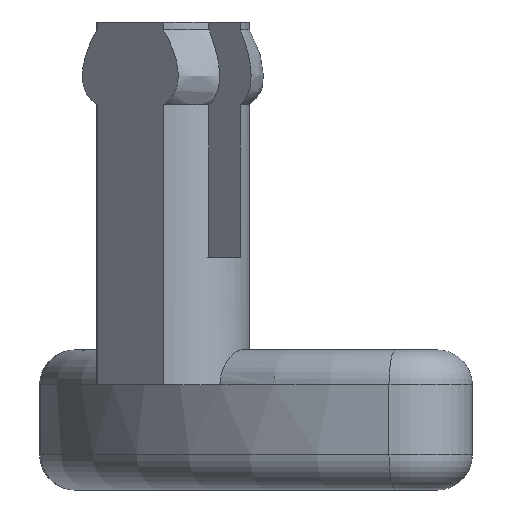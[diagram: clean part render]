
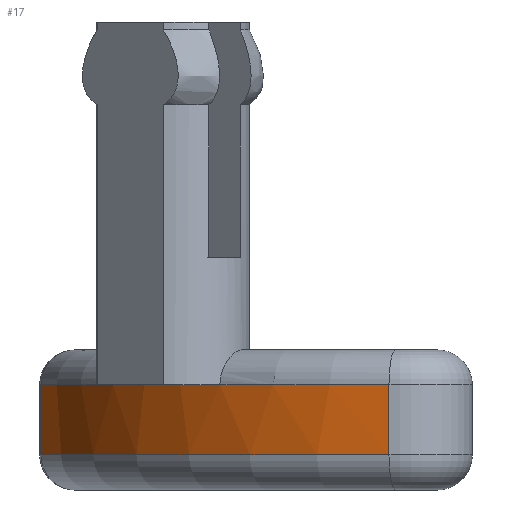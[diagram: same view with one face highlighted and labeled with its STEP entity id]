
A CAD part, front view. The second image highlights one B-rep face of the part: STEP entity #17.
In plain terms, the highlighted cylindrical face has radius 6.9 mm (diameter 13.8 mm), a partial arc.
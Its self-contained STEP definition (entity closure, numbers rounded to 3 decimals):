
#17 = ADVANCED_FACE('',(#18),#32,.T.);
#18 = FACE_BOUND('',#19,.F.);
#19 = EDGE_LOOP('',(#20,#55,#84,#117,#146,#174));
#20 = ORIENTED_EDGE('',*,*,#21,.T.);
#21 = EDGE_CURVE('',#22,#24,#26,.T.);
#22 = VERTEX_POINT('',#23);
#23 = CARTESIAN_POINT('',(-24.575,-19.109,-0.1));
#24 = VERTEX_POINT('',#25);
#25 = CARTESIAN_POINT('',(-24.575,-19.109,1.));
#26 = SURFACE_CURVE('',#27,(#31,#43),.PCURVE_S1.);
#27 = LINE('',#28,#29);
#28 = CARTESIAN_POINT('',(-24.575,-19.109,-0.65));
#29 = VECTOR('',#30,1.);
#30 = DIRECTION('',(0.,0.,1.));
#31 = PCURVE('',#32,#37);
#32 = CYLINDRICAL_SURFACE('',#33,6.9);
#33 = AXIS2_PLACEMENT_3D('',#34,#35,#36);
#34 = CARTESIAN_POINT('',(-17.8,-17.8,-0.65));
#35 = DIRECTION('',(0.,0.,-1.));
#36 = DIRECTION('',(-1.,0.,0.));
#37 = DEFINITIONAL_REPRESENTATION('',(#38),#42);
#38 = LINE('',#39,#40);
#39 = CARTESIAN_POINT('',(-0.191,0.));
#40 = VECTOR('',#41,1.);
#41 = DIRECTION('',(-0.,-1.));
#42 = ( GEOMETRIC_REPRESENTATION_CONTEXT(2) 
PARAMETRIC_REPRESENTATION_CONTEXT() REPRESENTATION_CONTEXT('2D SPACE',''
  ) );
#43 = PCURVE('',#44,#49);
#44 = CYLINDRICAL_SURFACE('',#45,1.1);
#45 = AXIS2_PLACEMENT_3D('',#46,#47,#48);
#46 = CARTESIAN_POINT('',(-23.495,-18.9,-0.65));
#47 = DIRECTION('',(0.,0.,1.));
#48 = DIRECTION('',(-0.982,-0.19,0.));
#49 = DEFINITIONAL_REPRESENTATION('',(#50),#54);
#50 = LINE('',#51,#52);
#51 = CARTESIAN_POINT('',(-0.,0.));
#52 = VECTOR('',#53,1.);
#53 = DIRECTION('',(-0.,1.));
#54 = ( GEOMETRIC_REPRESENTATION_CONTEXT(2) 
PARAMETRIC_REPRESENTATION_CONTEXT() REPRESENTATION_CONTEXT('2D SPACE',''
  ) );
#55 = ORIENTED_EDGE('',*,*,#56,.F.);
#56 = EDGE_CURVE('',#57,#24,#59,.T.);
#57 = VERTEX_POINT('',#58);
#58 = CARTESIAN_POINT('',(-23.448,-21.764,1.));
#59 = SURFACE_CURVE('',#60,(#65,#72),.PCURVE_S1.);
#60 = CIRCLE('',#61,6.9);
#61 = AXIS2_PLACEMENT_3D('',#62,#63,#64);
#62 = CARTESIAN_POINT('',(-17.8,-17.8,1.));
#63 = DIRECTION('',(-0.,0.,-1.));
#64 = DIRECTION('',(-0.19,-0.982,0.));
#65 = PCURVE('',#32,#66);
#66 = DEFINITIONAL_REPRESENTATION('',(#67),#71);
#67 = LINE('',#68,#69);
#68 = CARTESIAN_POINT('',(-1.38,-1.65));
#69 = VECTOR('',#70,1.);
#70 = DIRECTION('',(1.,-0.));
#71 = ( GEOMETRIC_REPRESENTATION_CONTEXT(2) 
PARAMETRIC_REPRESENTATION_CONTEXT() REPRESENTATION_CONTEXT('2D SPACE',''
  ) );
#72 = PCURVE('',#73,#78);
#73 = TOROIDAL_SURFACE('',#74,6.35,0.55);
#74 = AXIS2_PLACEMENT_3D('',#75,#76,#77);
#75 = CARTESIAN_POINT('',(-17.8,-17.8,1.));
#76 = DIRECTION('',(0.,0.,-1.));
#77 = DIRECTION('',(-0.19,-0.982,0.));
#78 = DEFINITIONAL_REPRESENTATION('',(#79),#83);
#79 = LINE('',#80,#81);
#80 = CARTESIAN_POINT('',(0.,6.283));
#81 = VECTOR('',#82,1.);
#82 = DIRECTION('',(1.,0.));
#83 = ( GEOMETRIC_REPRESENTATION_CONTEXT(2) 
PARAMETRIC_REPRESENTATION_CONTEXT() REPRESENTATION_CONTEXT('2D SPACE',''
  ) );
#84 = ORIENTED_EDGE('',*,*,#85,.F.);
#85 = EDGE_CURVE('',#86,#57,#88,.T.);
#86 = VERTEX_POINT('',#87);
#87 = CARTESIAN_POINT('',(-21.764,-23.448,1.));
#88 = SURFACE_CURVE('',#89,(#94,#101),.PCURVE_S1.);
#89 = CIRCLE('',#90,6.9);
#90 = AXIS2_PLACEMENT_3D('',#91,#92,#93);
#91 = CARTESIAN_POINT('',(-17.8,-17.8,1.));
#92 = DIRECTION('',(-0.,0.,-1.));
#93 = DIRECTION('',(-0.19,-0.982,0.));
#94 = PCURVE('',#32,#95);
#95 = DEFINITIONAL_REPRESENTATION('',(#96),#100);
#96 = LINE('',#97,#98);
#97 = CARTESIAN_POINT('',(-1.38,-1.65));
#98 = VECTOR('',#99,1.);
#99 = DIRECTION('',(1.,-0.));
#100 = ( GEOMETRIC_REPRESENTATION_CONTEXT(2) 
PARAMETRIC_REPRESENTATION_CONTEXT() REPRESENTATION_CONTEXT('2D SPACE',''
  ) );
#101 = PCURVE('',#102,#107);
#102 = PLANE('',#103);
#103 = AXIS2_PLACEMENT_3D('',#104,#105,#106);
#104 = CARTESIAN_POINT('',(-22.5,-22.5,1.));
#105 = DIRECTION('',(0.,0.,1.));
#106 = DIRECTION('',(-0.707,-0.707,0.));
#107 = DEFINITIONAL_REPRESENTATION('',(#108),#116);
#108 = ( BOUNDED_CURVE() B_SPLINE_CURVE(2,(#109,#110,#111,#112,#113,#114
,#115),.UNSPECIFIED.,.T.,.F.) B_SPLINE_CURVE_WITH_KNOTS((1,2,2,2,2,1),(
    -2.094,0.,2.094,4.189,6.283,
8.378),.UNSPECIFIED.) CURVE() GEOMETRIC_REPRESENTATION_ITEM() 
RATIONAL_B_SPLINE_CURVE((1.,0.5,1.,0.5,1.,0.5,1.)) REPRESENTATION_ITEM(
  '') );
#109 = CARTESIAN_POINT('',(-0.931,3.865));
#110 = CARTESIAN_POINT('',(5.764,-6.035));
#111 = CARTESIAN_POINT('',(-6.157,-6.883));
#112 = CARTESIAN_POINT('',(-18.078,-7.73));
#113 = CARTESIAN_POINT('',(-12.852,3.017));
#114 = CARTESIAN_POINT('',(-7.626,13.765));
#115 = CARTESIAN_POINT('',(-0.931,3.865));
#116 = ( GEOMETRIC_REPRESENTATION_CONTEXT(2) 
PARAMETRIC_REPRESENTATION_CONTEXT() REPRESENTATION_CONTEXT('2D SPACE',''
  ) );
#117 = ORIENTED_EDGE('',*,*,#118,.F.);
#118 = EDGE_CURVE('',#119,#86,#121,.T.);
#119 = VERTEX_POINT('',#120);
#120 = CARTESIAN_POINT('',(-19.109,-24.575,1.));
#121 = SURFACE_CURVE('',#122,(#127,#134),.PCURVE_S1.);
#122 = CIRCLE('',#123,6.9);
#123 = AXIS2_PLACEMENT_3D('',#124,#125,#126);
#124 = CARTESIAN_POINT('',(-17.8,-17.8,1.));
#125 = DIRECTION('',(-0.,0.,-1.));
#126 = DIRECTION('',(-0.19,-0.982,0.));
#127 = PCURVE('',#32,#128);
#128 = DEFINITIONAL_REPRESENTATION('',(#129),#133);
#129 = LINE('',#130,#131);
#130 = CARTESIAN_POINT('',(-1.38,-1.65));
#131 = VECTOR('',#132,1.);
#132 = DIRECTION('',(1.,-0.));
#133 = ( GEOMETRIC_REPRESENTATION_CONTEXT(2) 
PARAMETRIC_REPRESENTATION_CONTEXT() REPRESENTATION_CONTEXT('2D SPACE',''
  ) );
#134 = PCURVE('',#135,#140);
#135 = TOROIDAL_SURFACE('',#136,6.35,0.55);
#136 = AXIS2_PLACEMENT_3D('',#137,#138,#139);
#137 = CARTESIAN_POINT('',(-17.8,-17.8,1.));
#138 = DIRECTION('',(0.,0.,-1.));
#139 = DIRECTION('',(-0.19,-0.982,0.));
#140 = DEFINITIONAL_REPRESENTATION('',(#141),#145);
#141 = LINE('',#142,#143);
#142 = CARTESIAN_POINT('',(0.,6.283));
#143 = VECTOR('',#144,1.);
#144 = DIRECTION('',(1.,0.));
#145 = ( GEOMETRIC_REPRESENTATION_CONTEXT(2) 
PARAMETRIC_REPRESENTATION_CONTEXT() REPRESENTATION_CONTEXT('2D SPACE',''
  ) );
#146 = ORIENTED_EDGE('',*,*,#147,.T.);
#147 = EDGE_CURVE('',#119,#148,#150,.T.);
#148 = VERTEX_POINT('',#149);
#149 = CARTESIAN_POINT('',(-19.109,-24.575,-0.1));
#150 = SURFACE_CURVE('',#151,(#155,#162),.PCURVE_S1.);
#151 = LINE('',#152,#153);
#152 = CARTESIAN_POINT('',(-19.109,-24.575,1.55));
#153 = VECTOR('',#154,1.);
#154 = DIRECTION('',(0.,0.,-1.));
#155 = PCURVE('',#32,#156);
#156 = DEFINITIONAL_REPRESENTATION('',(#157),#161);
#157 = LINE('',#158,#159);
#158 = CARTESIAN_POINT('',(-1.38,-2.2));
#159 = VECTOR('',#160,1.);
#160 = DIRECTION('',(-0.,1.));
#161 = ( GEOMETRIC_REPRESENTATION_CONTEXT(2) 
PARAMETRIC_REPRESENTATION_CONTEXT() REPRESENTATION_CONTEXT('2D SPACE',''
  ) );
#162 = PCURVE('',#163,#168);
#163 = CYLINDRICAL_SURFACE('',#164,1.1);
#164 = AXIS2_PLACEMENT_3D('',#165,#166,#167);
#165 = CARTESIAN_POINT('',(-18.9,-23.495,1.55));
#166 = DIRECTION('',(0.,0.,-1.));
#167 = DIRECTION('',(-0.19,-0.982,0.));
#168 = DEFINITIONAL_REPRESENTATION('',(#169),#173);
#169 = LINE('',#170,#171);
#170 = CARTESIAN_POINT('',(-0.,0.));
#171 = VECTOR('',#172,1.);
#172 = DIRECTION('',(-0.,1.));
#173 = ( GEOMETRIC_REPRESENTATION_CONTEXT(2) 
PARAMETRIC_REPRESENTATION_CONTEXT() REPRESENTATION_CONTEXT('2D SPACE',''
  ) );
#174 = ORIENTED_EDGE('',*,*,#175,.T.);
#175 = EDGE_CURVE('',#148,#22,#176,.T.);
#176 = SURFACE_CURVE('',#177,(#182,#189),.PCURVE_S1.);
#177 = CIRCLE('',#178,6.9);
#178 = AXIS2_PLACEMENT_3D('',#179,#180,#181);
#179 = CARTESIAN_POINT('',(-17.8,-17.8,-0.1));
#180 = DIRECTION('',(-0.,0.,-1.));
#181 = DIRECTION('',(-0.19,-0.982,0.));
#182 = PCURVE('',#32,#183);
#183 = DEFINITIONAL_REPRESENTATION('',(#184),#188);
#184 = LINE('',#185,#186);
#185 = CARTESIAN_POINT('',(-1.38,-0.55));
#186 = VECTOR('',#187,1.);
#187 = DIRECTION('',(1.,-0.));
#188 = ( GEOMETRIC_REPRESENTATION_CONTEXT(2) 
PARAMETRIC_REPRESENTATION_CONTEXT() REPRESENTATION_CONTEXT('2D SPACE',''
  ) );
#189 = PCURVE('',#190,#195);
#190 = TOROIDAL_SURFACE('',#191,6.35,0.55);
#191 = AXIS2_PLACEMENT_3D('',#192,#193,#194);
#192 = CARTESIAN_POINT('',(-17.8,-17.8,-0.1));
#193 = DIRECTION('',(0.,0.,1.));
#194 = DIRECTION('',(-0.19,-0.982,0.));
#195 = DEFINITIONAL_REPRESENTATION('',(#196),#200);
#196 = LINE('',#197,#198);
#197 = CARTESIAN_POINT('',(-0.,6.283));
#198 = VECTOR('',#199,1.);
#199 = DIRECTION('',(-1.,0.));
#200 = ( GEOMETRIC_REPRESENTATION_CONTEXT(2) 
PARAMETRIC_REPRESENTATION_CONTEXT() REPRESENTATION_CONTEXT('2D SPACE',''
  ) );
